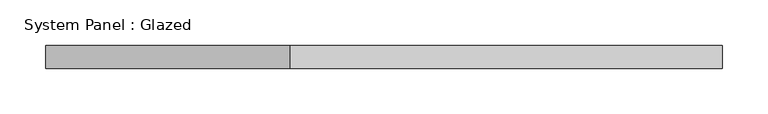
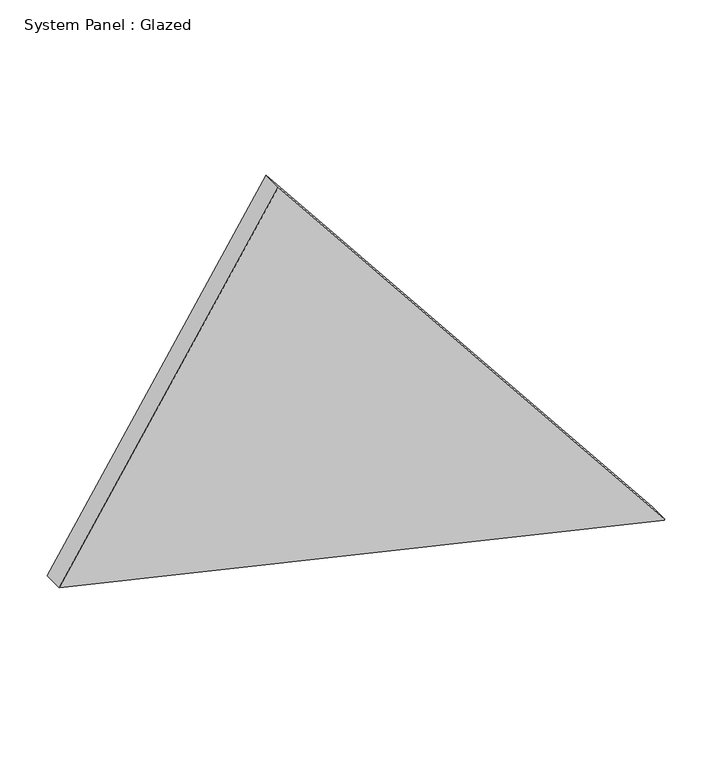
"""IFC4 building model written with IfcOpenShell, lengths in millimetres: plate geometry, System Panel : Glazed."""

import ifcopenshell
import ifcopenshell.guid

model = None  # the IFC model being written
_history = None  # IfcOwnerHistory: only IFC2X3 demands one
_inside = {}  # id of a spatial element -> (the spatial element, [elements in it])
_under = {}  # id of a project, library or spatial element -> (it, [spatial elements below it])
_declared = {}  # id of a project -> (the project, [libraries it declares])
_typed = {}  # id of a type object -> (the type object, [elements of that type])
_made_of = {}  # id of a material, layer set ... -> (it, [elements and type objects made of it])


def new_model(schema):
    """Start an empty IFC model of exactly this schema.

    Asked for "IFC4X3", IfcOpenShell would pick the latest addendum, in which some entities
    have other attributes; the version numbers below select the first issue.
    IFC2X3 requires an IfcOwnerHistory on every rooted entity: one is made here for all.
    """
    global model, _history
    if schema == "IFC4X3":
        model = ifcopenshell.file(schema_version=(4, 3, 0, 0))
    else:
        model = ifcopenshell.file(schema=schema)
    _inside.clear()
    _under.clear()
    _declared.clear()
    _typed.clear()
    _made_of.clear()
    _history = None
    if model.schema == "IFC2X3":
        org = make("IfcOrganization", Name="unknown")
        user = make(
            "IfcPersonAndOrganization",
            ThePerson=make("IfcPerson", FamilyName="unknown"),
            TheOrganization=org,
        )
        app = make(
            "IfcApplication",
            ApplicationDeveloper=org,
            Version="unknown",
            ApplicationFullName="unknown",
            ApplicationIdentifier="unknown",
        )
        _history = make(
            "IfcOwnerHistory",
            OwningUser=user,
            OwningApplication=app,
            ChangeAction="ADDED",
            CreationDate=0,
        )
    return model


def make(cls, **values):
    """One entity of the class cls with the attributes given. An attribute that is None is left unset."""
    return model.create_entity(
        cls, **{name: value for name, value in values.items() if value is not None}
    )


def rooted(cls, **values):
    """An entity with a GlobalId (a new one), such as an element, a storey or a relation."""
    return make(cls, GlobalId=ifcopenshell.guid.new(), OwnerHistory=_history, **values)


def si_unit(unit_type, name, prefix=None):
    """IfcSIUnit, for example si_unit("LENGTHUNIT", "METRE", prefix="MILLI")."""
    return make("IfcSIUnit", UnitType=unit_type, Prefix=prefix, Name=name)


def assignment(units):
    """IfcUnitAssignment: the units of a project."""
    return None if units is None else make("IfcUnitAssignment", Units=units)


def point(xyz):
    """IfcCartesianPoint."""
    return None if xyz is None else make("IfcCartesianPoint", Coordinates=xyz)


def direction(xyz):
    """IfcDirection."""
    return None if xyz is None else make("IfcDirection", DirectionRatios=xyz)


def frame(location, z_axis=None, x_axis=None):
    """IfcAxis2Placement3D, a coordinate frame: its origin and axes. An axis left out is left unset."""
    return make(
        "IfcAxis2Placement3D",
        Location=point(location),
        Axis=direction(z_axis),
        RefDirection=direction(x_axis),
    )


def origin():
    """The frame at (0, 0, 0) with its axes left unset."""
    return frame((0.0, 0.0, 0.0))


def place(relative_to, where):
    """IfcLocalPlacement: puts the frame where relative to a parent placement (None: the world)."""
    return make(
        "IfcLocalPlacement", PlacementRelTo=relative_to, RelativePlacement=where
    )


def context(
    kind, dimensions, precision=None, world=None, true_north=None, identifier=None
):
    """IfcGeometricRepresentationContext, for example the 3D "Model" context."""
    return make(
        "IfcGeometricRepresentationContext",
        ContextIdentifier=identifier,
        ContextType=kind,
        CoordinateSpaceDimension=dimensions,
        Precision=precision,
        WorldCoordinateSystem=world,
        TrueNorth=true_north,
    )


def project(units=None, contexts=None):
    """IfcProject with its units and contexts."""
    return rooted(
        "IfcProject",
        Name="project",
        RepresentationContexts=contexts,
        UnitsInContext=assignment(units),
    )


def spatial(cls, under=None, at=None, **own):
    """A site, building, storey or space (cls), placed at a placement, below another one or the project."""
    s = rooted(cls, ObjectPlacement=at, **own)
    if under is not None:
        _under.setdefault(under.id(), (under, []))[1].append(s)
    return s


def polyline(points):
    """IfcPolyline through the points."""
    return make("IfcPolyline", Points=[point(p) for p in points])


def outline(outer, holes=None, kind="AREA"):
    """IfcArbitraryClosedProfileDef: a profile drawn as a closed curve; with holes, ...WithVoids."""
    if holes is None:
        return make("IfcArbitraryClosedProfileDef", ProfileType=kind, OuterCurve=outer)
    return make(
        "IfcArbitraryProfileDefWithVoids",
        ProfileType=kind,
        OuterCurve=outer,
        InnerCurves=holes,
    )


def extrude(swept, where, along, depth):
    """IfcExtrudedAreaSolid: the profile swept, set in the frame where, extruded along a direction by depth."""
    return make(
        "IfcExtrudedAreaSolid",
        SweptArea=swept,
        Position=where,
        ExtrudedDirection=direction(along),
        Depth=depth,
    )


def shape(context_of_items, identifier, shape_type, items):
    """IfcShapeRepresentation: the items that make up one representation, for example the "Body"."""
    return make(
        "IfcShapeRepresentation",
        ContextOfItems=context_of_items,
        RepresentationIdentifier=identifier,
        RepresentationType=shape_type,
        Items=items,
    )


def source(mapping_origin, context_of_items, identifier, shape_type, items):
    """IfcRepresentationMap: a shape defined once, which mapped items show again and again."""
    return make(
        "IfcRepresentationMap",
        MappingOrigin=mapping_origin,
        MappedRepresentation=shape(context_of_items, identifier, shape_type, items),
    )


def transform(
    local_origin,
    x_axis=None,
    y_axis=None,
    z_axis=None,
    scale=None,
    scale2=None,
    scale3=None,
    uniform=True,
):
    """IfcCartesianTransformationOperator3D, or its non-uniform kind. x_axis, y_axis, z_axis: its Axis1, 2, 3."""
    if uniform:
        return make(
            "IfcCartesianTransformationOperator3D",
            Axis1=direction(x_axis),
            Axis2=direction(y_axis),
            LocalOrigin=point(local_origin),
            Scale=scale,
            Axis3=direction(z_axis),
        )
    return make(
        "IfcCartesianTransformationOperator3DnonUniform",
        Axis1=direction(x_axis),
        Axis2=direction(y_axis),
        LocalOrigin=point(local_origin),
        Scale=scale,
        Axis3=direction(z_axis),
        Scale2=scale2,
        Scale3=scale3,
    )


def mapped(mapping_source, mapping_target):
    """IfcMappedItem: shows the shape of a source again, moved by a transform."""
    return make(
        "IfcMappedItem", MappingSource=mapping_source, MappingTarget=mapping_target
    )


def made_of(thing, what):
    """Note that an element or type object is made of a material, layer set ...; save() writes the relation."""
    if what is not None:
        _made_of.setdefault(what.id(), (what, []))[1].append(thing)
    return thing


def element(
    cls,
    number,
    at=None,
    inside=None,
    cuts=None,
    type_object=None,
    material=None,
    context=None,
    identifier="Body",
    shape_type=None,
    held_by="IfcProductDefinitionShape",
    body=None,
    shapes=None,
    **own,
):
    """One element of the class cls, such as IfcWall. Its Tag is "e" and its number.

    at: its placement. inside: the storey or other place that contains it. cuts: it is an
    opening in that element (IfcRelVoidsElement). A single representation is given by context,
    identifier, shape_type and body (its items); several are given by shapes. held_by: the class
    of the entity that holds the representations. save() writes the other relations.
    """
    e = rooted(cls, Tag="e%d" % number, ObjectPlacement=at, **own)
    if body is not None:
        shapes = [shape(context, identifier, shape_type, body)]
    if shapes is not None:
        e.Representation = make(held_by, Representations=shapes)
    if inside is not None:
        _inside.setdefault(inside.id(), (inside, []))[1].append(e)
    if cuts is not None:
        rooted(
            "IfcRelVoidsElement", RelatingBuildingElement=cuts, RelatedOpeningElement=e
        )
    if type_object is not None:
        _typed.setdefault(type_object.id(), (type_object, []))[1].append(e)
    return made_of(e, material)


def aggregate(whole, parts):
    """IfcRelAggregates: a whole, such as a stair, and the parts it consists of."""
    return rooted("IfcRelAggregates", RelatingObject=whole, RelatedObjects=parts)


def save(model, path):
    """Write the relations noted so far, then the file.

    IfcRelAggregates (storeys below a building ...), IfcRelContainedInSpatialStructure (elements
    in a storey), IfcRelDefinesByType, IfcRelAssociatesMaterial and IfcRelDeclares: one each for
    every whole, place, type object, material and project.
    """
    for whole, parts in _under.values():
        aggregate(whole, parts)
    for where, things in _inside.values():
        rooted(
            "IfcRelContainedInSpatialStructure",
            RelatedElements=things,
            RelatingStructure=where,
        )
    for kind, things in _typed.values():
        rooted("IfcRelDefinesByType", RelatedObjects=things, RelatingType=kind)
    for what, things in _made_of.values():
        rooted("IfcRelAssociatesMaterial", RelatedObjects=things, RelatingMaterial=what)
    for by, libraries in _declared.values():
        rooted("IfcRelDeclares", RelatingContext=by, RelatedDefinitions=libraries)
    model.write(path)


def system_panel_glazed_1b81f75c(model_context):
    return source(origin(), model_context, "Body", "SweptSolid", [
        extrude(outline(polyline([(0.0, 371.0450478), (1.416945, 371.9407582), (598.388679, -102.9848946), (172.9211348, -371.9407582), (0.0, 371.0450478)])), frame((0.0, -44.45, 0.0), z_axis=(0.0, 1.0, 0.0), x_axis=(0.0, 0.0, 1.0)), (0.0, 0.0, 1.0), 25.4),
    ])


if __name__ == "__main__":
    model = new_model("IFC4")
    model_context = context("Model", 3, world=origin())
    ifc_project = project(units=[si_unit("LENGTHUNIT", "METRE", prefix="MILLI")], contexts=[model_context])
    site = spatial("IfcSite", under=ifc_project)
    building = spatial("IfcBuilding", under=site)
    placement = place(None, origin())
    system_panel_glazed_shape = system_panel_glazed_1b81f75c(model_context)
    element("IfcPlate", 1, ObjectType="System Panel : Glazed", at=placement, inside=building, context=model_context, shape_type="MappedRepresentation", body=[
        mapped(system_panel_glazed_shape, transform((0.0, 0.0, 0.0), x_axis=(1.0, 0.0, 0.0), y_axis=(0.0, 1.0, 0.0), z_axis=(0.0, 0.0, 1.0))),
    ])
    save(model, "model.ifc")
